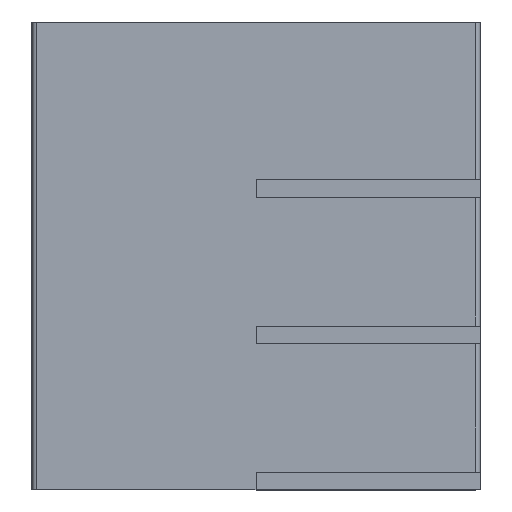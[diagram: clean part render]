
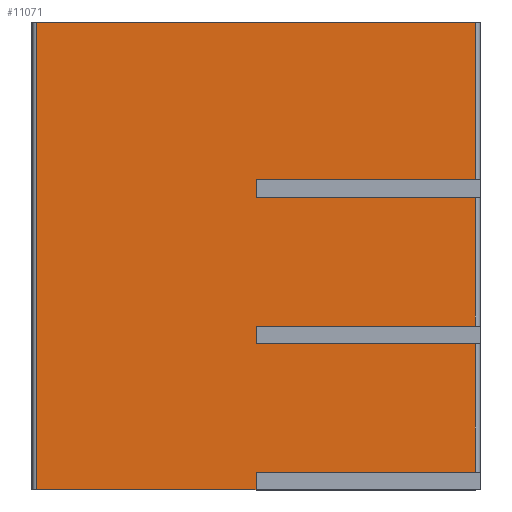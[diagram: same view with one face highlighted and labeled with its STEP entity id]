
A CAD part, top view. The second image highlights one B-rep face of the part: STEP entity #11071.
In plain terms, the highlighted planar face has unit normal (0, 0, 1).
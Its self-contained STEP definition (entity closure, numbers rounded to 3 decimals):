
#65=DIRECTION('',(0.,-1.,0.));
#66=VECTOR('',#65,24.);
#67=CARTESIAN_POINT('',(0.25,1.5,0.));
#68=LINE('',#67,#66);
#73=DIRECTION('',(0.,1.,0.));
#74=VECTOR('',#73,6.6);
#75=CARTESIAN_POINT('',(22.75,-21.6,0.));
#76=LINE('',#75,#74);
#77=DIRECTION('',(-1.,0.,0.));
#78=VECTOR('',#77,11.25);
#79=CARTESIAN_POINT('',(11.5,-22.5,0.));
#80=LINE('',#79,#78);
#81=DIRECTION('',(0.,1.,0.));
#82=VECTOR('',#81,6.6);
#83=CARTESIAN_POINT('',(22.75,-14.1,0.));
#84=LINE('',#83,#82);
#89=DIRECTION('',(0.,1.,0.));
#90=VECTOR('',#89,0.9);
#91=CARTESIAN_POINT('',(11.5,-15.,0.));
#92=LINE('',#91,#90);
#110=DIRECTION('',(-1.,0.,0.));
#111=VECTOR('',#110,11.25);
#112=CARTESIAN_POINT('',(22.75,-15.,0.));
#113=LINE('',#112,#111);
#127=DIRECTION('',(1.,0.,0.));
#128=VECTOR('',#127,11.25);
#129=CARTESIAN_POINT('',(11.5,-14.1,0.));
#130=LINE('',#129,#128);
#140=DIRECTION('',(-1.,0.,0.));
#141=VECTOR('',#140,11.25);
#142=CARTESIAN_POINT('',(22.75,-7.5,0.));
#143=LINE('',#142,#141);
#156=DIRECTION('',(0.,1.,0.));
#157=VECTOR('',#156,0.9);
#158=CARTESIAN_POINT('',(11.5,-7.5,0.));
#159=LINE('',#158,#157);
#173=DIRECTION('',(1.,0.,0.));
#174=VECTOR('',#173,11.25);
#175=CARTESIAN_POINT('',(11.5,-6.6,0.));
#176=LINE('',#175,#174);
#181=DIRECTION('',(0.,1.,0.));
#182=VECTOR('',#181,8.1);
#183=CARTESIAN_POINT('',(22.75,-6.6,0.));
#184=LINE('',#183,#182);
#4766=DIRECTION('',(1.,0.,0.));
#4767=VECTOR('',#4766,22.5);
#4768=CARTESIAN_POINT('',(0.25,1.5,0.));
#4769=LINE('',#4768,#4767);
#7200=DIRECTION('',(0.,1.,0.));
#7201=VECTOR('',#7200,0.9);
#7202=CARTESIAN_POINT('',(11.5,-22.5,0.));
#7203=LINE('',#7202,#7201);
#7225=DIRECTION('',(1.,0.,0.));
#7226=VECTOR('',#7225,11.25);
#7227=CARTESIAN_POINT('',(11.5,-21.6,0.));
#7228=LINE('',#7227,#7226);
#8517=CARTESIAN_POINT('',(0.25,1.5,0.));
#8519=VERTEX_POINT('',#8517);
#8520=CARTESIAN_POINT('',(22.75,1.5,0.));
#8522=VERTEX_POINT('',#8520);
#8811=CARTESIAN_POINT('',(11.5,-6.6,0.));
#8813=VERTEX_POINT('',#8811);
#8985=CARTESIAN_POINT('',(22.75,-6.6,0.));
#8987=VERTEX_POINT('',#8985);
#9055=CARTESIAN_POINT('',(11.5,-14.1,0.));
#9057=VERTEX_POINT('',#9055);
#9435=CARTESIAN_POINT('',(22.75,-7.5,0.));
#9437=VERTEX_POINT('',#9435);
#9441=CARTESIAN_POINT('',(22.75,-14.1,0.));
#9442=VERTEX_POINT('',#9441);
#9485=CARTESIAN_POINT('',(11.5,-7.5,0.));
#9486=VERTEX_POINT('',#9485);
#9523=CARTESIAN_POINT('',(11.5,-22.5,0.));
#9525=VERTEX_POINT('',#9523);
#9831=CARTESIAN_POINT('',(11.5,-21.6,0.));
#9832=VERTEX_POINT('',#9831);
#10003=CARTESIAN_POINT('',(22.75,-15.,0.));
#10005=VERTEX_POINT('',#10003);
#10009=CARTESIAN_POINT('',(22.75,-21.6,0.));
#10010=VERTEX_POINT('',#10009);
#10011=CARTESIAN_POINT('',(0.25,-22.5,0.));
#10013=VERTEX_POINT('',#10011);
#10055=CARTESIAN_POINT('',(11.5,-15.,0.));
#10057=VERTEX_POINT('',#10055);
#11037=CARTESIAN_POINT('',(0.,0.,0.));
#11038=DIRECTION('',(0.,0.,1.));
#11039=DIRECTION('',(1.,0.,0.));
#11040=AXIS2_PLACEMENT_3D('',#11037,#11038,#11039);
#11041=PLANE('',#11040);
#11043=ORIENTED_EDGE('',*,*,#11042,.F.);
#11045=ORIENTED_EDGE('',*,*,#11044,.F.);
#11047=ORIENTED_EDGE('',*,*,#11046,.F.);
#11049=ORIENTED_EDGE('',*,*,#11048,.F.);
#11051=ORIENTED_EDGE('',*,*,#11050,.F.);
#11053=ORIENTED_EDGE('',*,*,#11052,.T.);
#11054=ORIENTED_EDGE('',*,*,#11027,.F.);
#11056=ORIENTED_EDGE('',*,*,#11055,.T.);
#11058=ORIENTED_EDGE('',*,*,#11057,.F.);
#11060=ORIENTED_EDGE('',*,*,#11059,.F.);
#11062=ORIENTED_EDGE('',*,*,#11061,.F.);
#11064=ORIENTED_EDGE('',*,*,#11063,.F.);
#11066=ORIENTED_EDGE('',*,*,#11065,.F.);
#11068=ORIENTED_EDGE('',*,*,#11067,.F.);
#11069=EDGE_LOOP('',(#11043,#11045,#11047,#11049,#11051,#11053,#11054,#11056,
#11058,#11060,#11062,#11064,#11066,#11068));
#11070=FACE_OUTER_BOUND('',#11069,.F.);
#11071=ADVANCED_FACE('',(#11070),#11041,.T.);
#11027=EDGE_CURVE('',#8519,#10013,#68,.T.);
#11042=EDGE_CURVE('',#10057,#9057,#92,.T.);
#11044=EDGE_CURVE('',#10005,#10057,#113,.T.);
#11046=EDGE_CURVE('',#10010,#10005,#76,.T.);
#11048=EDGE_CURVE('',#9832,#10010,#7228,.T.);
#11050=EDGE_CURVE('',#9525,#9832,#7203,.T.);
#11052=EDGE_CURVE('',#9525,#10013,#80,.T.);
#11055=EDGE_CURVE('',#8519,#8522,#4769,.T.);
#11057=EDGE_CURVE('',#8987,#8522,#184,.T.);
#11059=EDGE_CURVE('',#8813,#8987,#176,.T.);
#11061=EDGE_CURVE('',#9486,#8813,#159,.T.);
#11063=EDGE_CURVE('',#9437,#9486,#143,.T.);
#11065=EDGE_CURVE('',#9442,#9437,#84,.T.);
#11067=EDGE_CURVE('',#9057,#9442,#130,.T.);
